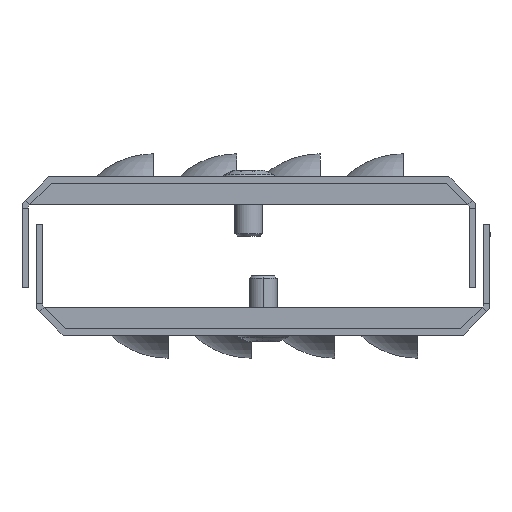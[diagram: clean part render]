
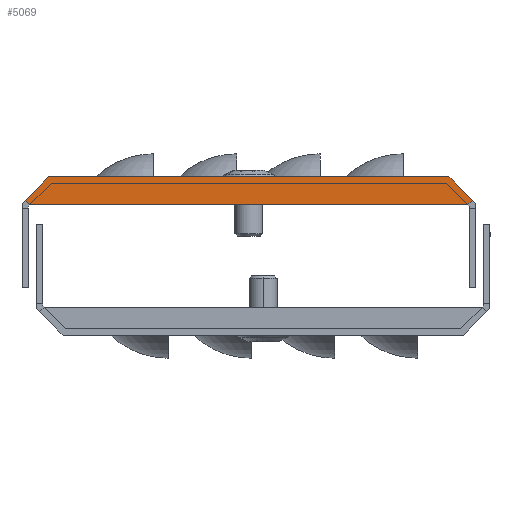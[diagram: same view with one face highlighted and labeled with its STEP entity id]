
A CAD part, left-side view. The second image highlights one B-rep face of the part: STEP entity #5069.
In plain terms, the highlighted planar face has unit normal (-1, 0, 0).
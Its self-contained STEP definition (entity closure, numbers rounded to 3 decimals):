
#41 = EDGE_CURVE ( 'NONE', #1253, #5167, #50, .T. ) ;
#50 = LINE ( 'NONE', #2350, #3719 ) ;
#180 = LINE ( 'NONE', #1661, #1167 ) ;
#220 = ORIENTED_EDGE ( 'NONE', *, *, #2429, .T. ) ;
#271 = EDGE_CURVE ( 'NONE', #1186, #2214, #4935, .T. ) ;
#375 = CARTESIAN_POINT ( 'NONE',  ( -395., -96.413, -6.037 ) ) ;
#386 = CARTESIAN_POINT ( 'NONE',  ( -395., -96.249, -6.037 ) ) ;
#535 = DIRECTION ( 'NONE',  ( 1., 0., 0. ) ) ;
#554 = ORIENTED_EDGE ( 'NONE', *, *, #3219, .T. ) ;
#684 = VECTOR ( 'NONE', #5077, 1000. ) ;
#715 = CARTESIAN_POINT ( 'NONE',  ( -395., -1.693, -6.037 ) ) ;
#733 = LINE ( 'NONE', #5586, #684 ) ;
#851 = LINE ( 'NONE', #375, #1450 ) ;
#853 = CARTESIAN_POINT ( 'NONE',  ( -395., -5.75, 0. ) ) ;
#1003 = FACE_OUTER_BOUND ( 'NONE', #2036, .T. ) ;
#1167 = VECTOR ( 'NONE', #4569, 1000. ) ;
#1186 = VERTEX_POINT ( 'NONE', #715 ) ;
#1253 = VERTEX_POINT ( 'NONE', #2636 ) ;
#1400 = VECTOR ( 'NONE', #3532, 1000. ) ;
#1450 = VECTOR ( 'NONE', #2298, 1000. ) ;
#1466 = DIRECTION ( 'NONE',  ( 0., 1., 0. ) ) ;
#1661 = CARTESIAN_POINT ( 'NONE',  ( -395., -96.413, -6.037 ) ) ;
#1679 = VECTOR ( 'NONE', #2848, 1000. ) ;
#1783 = CARTESIAN_POINT ( 'NONE',  ( -395., -96.413, -6.037 ) ) ;
#1894 = DIRECTION ( 'NONE',  ( 0., -1., 0. ) ) ;
#1965 = VECTOR ( 'NONE', #5927, 1000. ) ;
#2036 = EDGE_LOOP ( 'NONE', ( #554, #5971, #3671, #3642, #220, #3077, #3604, #3934 ) ) ;
#2069 = LINE ( 'NONE', #3999, #1965 ) ;
#2214 = VERTEX_POINT ( 'NONE', #5233 ) ;
#2298 = DIRECTION ( 'NONE',  ( 0., -1., 0. ) ) ;
#2350 = CARTESIAN_POINT ( 'NONE',  ( -395., -92.356, 0. ) ) ;
#2429 = EDGE_CURVE ( 'NONE', #5703, #6203, #180, .T. ) ;
#2562 = EDGE_CURVE ( 'NONE', #2214, #4559, #4127, .T. ) ;
#2636 = CARTESIAN_POINT ( 'NONE',  ( -395., -92.356, 0. ) ) ;
#2848 = DIRECTION ( 'NONE',  ( 0., -1., 0. ) ) ;
#2936 = CARTESIAN_POINT ( 'NONE',  ( -395., -6.744, -2.4 ) ) ;
#3053 = EDGE_CURVE ( 'NONE', #4559, #5703, #851, .T. ) ;
#3077 = ORIENTED_EDGE ( 'NONE', *, *, #4401, .T. ) ;
#3219 = EDGE_CURVE ( 'NONE', #5075, #1186, #2069, .T. ) ;
#3477 = PLANE ( 'NONE',  #4726 ) ;
#3532 = DIRECTION ( 'NONE',  ( 0., -1., 0. ) ) ;
#3604 = ORIENTED_EDGE ( 'NONE', *, *, #41, .T. ) ;
#3642 = ORIENTED_EDGE ( 'NONE', *, *, #3053, .T. ) ;
#3653 = CARTESIAN_POINT ( 'NONE',  ( -395., -49.053, -6.037 ) ) ;
#3671 = ORIENTED_EDGE ( 'NONE', *, *, #2562, .T. ) ;
#3719 = VECTOR ( 'NONE', #1466, 1000. ) ;
#3757 = DIRECTION ( 'NONE',  ( 0., 0.707, -0.707 ) ) ;
#3827 = CARTESIAN_POINT ( 'NONE',  ( -395., -0.703, -5.047 ) ) ;
#3934 = ORIENTED_EDGE ( 'NONE', *, *, #4901, .T. ) ;
#3999 = CARTESIAN_POINT ( 'NONE',  ( -395., -0.703, -5.047 ) ) ;
#4062 = CARTESIAN_POINT ( 'NONE',  ( -395., -97.403, -5.047 ) ) ;
#4127 = LINE ( 'NONE', #3653, #1679 ) ;
#4401 = EDGE_CURVE ( 'NONE', #6203, #1253, #733, .T. ) ;
#4467 = CARTESIAN_POINT ( 'NONE',  ( -395., -1.693, -6.037 ) ) ;
#4559 = VERTEX_POINT ( 'NONE', #386 ) ;
#4569 = DIRECTION ( 'NONE',  ( 0., -0.707, 0.707 ) ) ;
#4726 = AXIS2_PLACEMENT_3D ( 'NONE', #2936, #535, #1894 ) ;
#4901 = EDGE_CURVE ( 'NONE', #5167, #5075, #5648, .T. ) ;
#4935 = LINE ( 'NONE', #4467, #1400 ) ;
#5069 = ADVANCED_FACE ( 'NONE', ( #1003 ), #3477, .F. ) ;
#5075 = VERTEX_POINT ( 'NONE', #3827 ) ;
#5077 = DIRECTION ( 'NONE',  ( 0., 0.707, 0.707 ) ) ;
#5167 = VERTEX_POINT ( 'NONE', #5429 ) ;
#5233 = CARTESIAN_POINT ( 'NONE',  ( -395., -1.857, -6.037 ) ) ;
#5429 = CARTESIAN_POINT ( 'NONE',  ( -395., -5.75, 0. ) ) ;
#5586 = CARTESIAN_POINT ( 'NONE',  ( -395., -92.356, 0. ) ) ;
#5648 = LINE ( 'NONE', #853, #5829 ) ;
#5703 = VERTEX_POINT ( 'NONE', #1783 ) ;
#5829 = VECTOR ( 'NONE', #3757, 1000. ) ;
#5927 = DIRECTION ( 'NONE',  ( 0., -0.707, -0.707 ) ) ;
#5971 = ORIENTED_EDGE ( 'NONE', *, *, #271, .T. ) ;
#6203 = VERTEX_POINT ( 'NONE', #4062 ) ;
